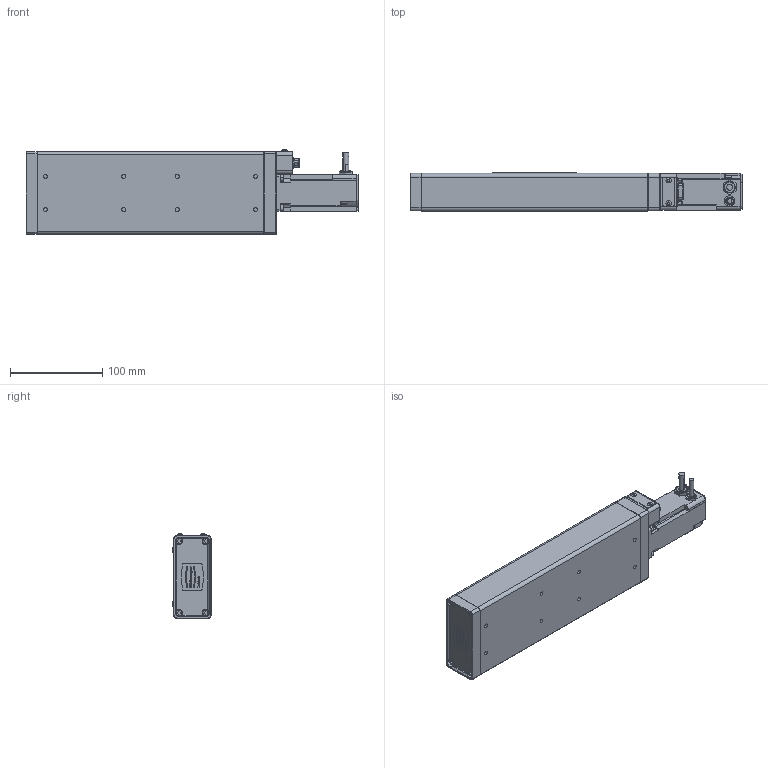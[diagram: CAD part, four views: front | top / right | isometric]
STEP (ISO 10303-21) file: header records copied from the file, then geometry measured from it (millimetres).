
FILE_DESCRIPTION((''),'2;1');
FILE_NAME('STM_LTP90_552168_ASM','2026-04-23T14:28:51',('profile'),(''),'CREO PARAMETRIC BY PTC INC, 2025123','CREO PARAMETRIC BY PTC INC, 2025123','');
FILE_SCHEMA(('AP242_MANAGED_MODEL_BASED_3D_ENGINEERING_MIM_LF { 1 0 10303 442 1 1 4 }'));
Products named in the file (7): STM_GRUND_552167; AL_ALUMINIUM; STM_SCHIE_552165; STM_ABDEC_552166; STM_LTP90_552168_ASM
Assembly tree (3 placements, depth 2):
  AL_ALUMINIUM
  AL_ALUMINIUM
  AL_ALUMINIUM
  STM_LTP90_552168_ASM
    STM_GRUND_552167
    STM_SCHIE_552165
    STM_ABDEC_552166
Bounding box: 360.1 x 41.3 x 92.15 mm (x, y, z)
Volume: 911466.7 mm3; surface area: 161373.3 mm2
Topology: 3 solids, 4 shells, 1164 faces, 2866 edges, 1807 vertices
Faces by surface type: plane 615, cylinder 290, cone 112, extrusion 105, torus 20, sphere 18, bspline 4
Entity records: 58566 total; most frequent: CARTESIAN_POINT 11703, ORIENTED_EDGE 5688, DIRECTION 5626, PRESENTATION_STYLE_ASSIGNMENT 4154, STYLED_ITEM 2990, CURVE_STYLE 2987, EDGE_CURVE 2844, VECTOR 1990
